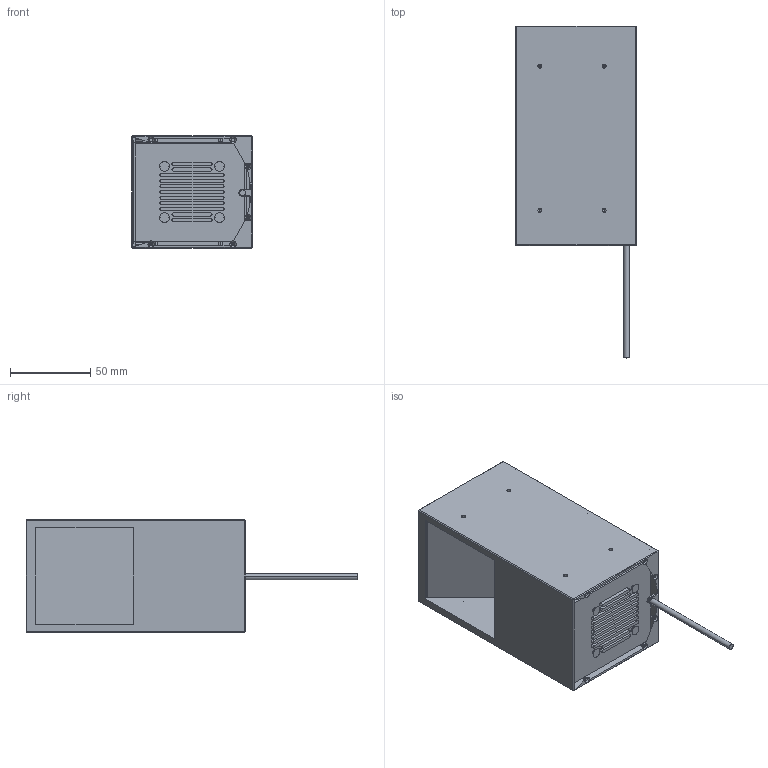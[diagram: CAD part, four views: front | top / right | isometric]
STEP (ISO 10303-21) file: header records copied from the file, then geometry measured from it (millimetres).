
FILE_DESCRIPTION((''),'2;1');
FILE_NAME('MV-LCDM-60-60_ASM','2019-09-20T',('win 10'),(''),'PRO/ENGINEER BY PARAMETRIC TECHNOLOGY CORPORATION, 2010100','PRO/ENGINEER BY PARAMETRIC TECHNOLOGY CORPORATION, 2010100','');
FILE_SCHEMA(('CONFIG_CONTROL_DESIGN'));
Length unit declared in the file: millimetre
Products named in the file (7): MV-LCDM-60-60-3; MV-LCDM-60-60-4; MV-LCDM-60-60-2_ASM; MV-LCDM-60-60-5; MV-LCDM-60-60-6; MV-LCDM-60-60-1_ASM; MV-LCDM-60-60_ASM
Assembly tree (6 placements, depth 4):
  MV-LCDM-60-60_ASM
    MV-LCDM-60-60-1_ASM
      MV-LCDM-60-60-2_ASM
        MV-LCDM-60-60-3
        MV-LCDM-60-60-4
      MV-LCDM-60-60-5
      MV-LCDM-60-60-6
Bounding box: 75 x 207 x 70 mm (x, y, z)
Volume: 216265.5 mm3; surface area: 107975.3 mm2
Topology: 4 solids, 12 shells, 391 faces, 1071 edges, 671 vertices
Faces by surface type: plane 165, cylinder 156, cone 70
Entity records: 12254 total; most frequent: DIRECTION 2218, CARTESIAN_POINT 2079, ORIENTED_EDGE 2010, EDGE_CURVE 1005, AXIS2_PLACEMENT_3D 805, VERTEX_POINT 662, VECTOR 608, LINE 608
